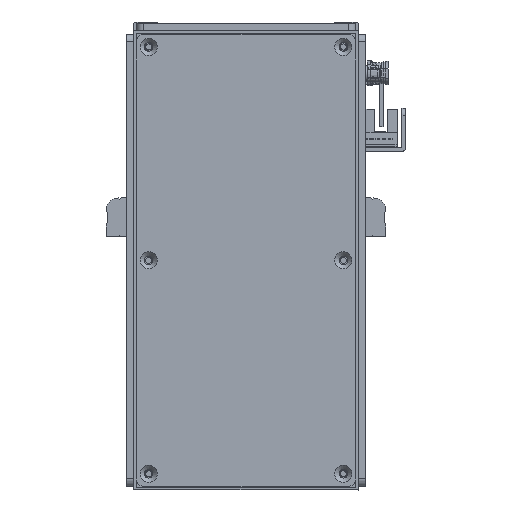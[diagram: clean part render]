
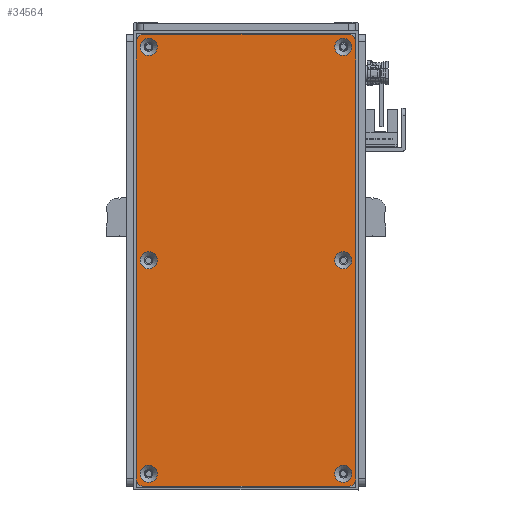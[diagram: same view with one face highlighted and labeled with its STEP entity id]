
A CAD part, front view. The second image highlights one B-rep face of the part: STEP entity #34564.
In plain terms, the highlighted planar face has unit normal (0, -1, 0) as drawn and (0, 0, 1) by its records, which use the part's own axes.
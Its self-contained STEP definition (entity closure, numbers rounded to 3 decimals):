
#4651=FACE_BOUND('',#8336,.T.);
#4652=FACE_BOUND('',#8337,.T.);
#4653=FACE_BOUND('',#8338,.T.);
#4654=FACE_BOUND('',#8339,.T.);
#4655=FACE_BOUND('',#8340,.T.);
#4656=FACE_BOUND('',#8341,.T.);
#6256=FACE_OUTER_BOUND('',#8335,.T.);
#8335=EDGE_LOOP('',(#31529,#31530,#31531,#31532,#31533,#31534,#31535,#31536));
#8336=EDGE_LOOP('',(#31537));
#8337=EDGE_LOOP('',(#31538));
#8338=EDGE_LOOP('',(#31539));
#8339=EDGE_LOOP('',(#31540));
#8340=EDGE_LOOP('',(#31541));
#8341=EDGE_LOOP('',(#31542));
#10021=CIRCLE('',#38963,3.45);
#10024=CIRCLE('',#38968,3.45);
#10027=CIRCLE('',#38973,3.45);
#10030=CIRCLE('',#38978,3.45);
#10033=CIRCLE('',#38983,3.45);
#10036=CIRCLE('',#38988,3.45);
#10043=CIRCLE('',#38998,3.);
#10044=CIRCLE('',#39001,3.);
#10045=CIRCLE('',#39004,3.);
#10046=CIRCLE('',#39007,3.);
#12671=LINE('',#60767,#15409);
#12674=LINE('',#60775,#15412);
#12677=LINE('',#60783,#15415);
#12680=LINE('',#60790,#15418);
#15409=VECTOR('',#48406,10.);
#15412=VECTOR('',#48415,10.);
#15415=VECTOR('',#48424,10.);
#15418=VECTOR('',#48433,10.);
#18401=VERTEX_POINT('',#60683);
#18404=VERTEX_POINT('',#60693);
#18407=VERTEX_POINT('',#60703);
#18410=VERTEX_POINT('',#60713);
#18413=VERTEX_POINT('',#60723);
#18416=VERTEX_POINT('',#60733);
#18427=VERTEX_POINT('',#60760);
#18428=VERTEX_POINT('',#60762);
#18429=VERTEX_POINT('',#60766);
#18430=VERTEX_POINT('',#60770);
#18431=VERTEX_POINT('',#60774);
#18432=VERTEX_POINT('',#60778);
#18433=VERTEX_POINT('',#60782);
#18434=VERTEX_POINT('',#60786);
#22783=EDGE_CURVE('',#18401,#18401,#10021,.T.);
#22788=EDGE_CURVE('',#18404,#18404,#10024,.T.);
#22793=EDGE_CURVE('',#18407,#18407,#10027,.T.);
#22798=EDGE_CURVE('',#18410,#18410,#10030,.T.);
#22803=EDGE_CURVE('',#18413,#18413,#10033,.T.);
#22808=EDGE_CURVE('',#18416,#18416,#10036,.T.);
#22822=EDGE_CURVE('',#18428,#18427,#10043,.T.);
#22824=EDGE_CURVE('',#18429,#18428,#12671,.T.);
#22826=EDGE_CURVE('',#18430,#18429,#10044,.T.);
#22828=EDGE_CURVE('',#18431,#18430,#12674,.T.);
#22830=EDGE_CURVE('',#18432,#18431,#10045,.T.);
#22832=EDGE_CURVE('',#18433,#18432,#12677,.T.);
#22834=EDGE_CURVE('',#18434,#18433,#10046,.T.);
#22836=EDGE_CURVE('',#18427,#18434,#12680,.T.);
#31529=ORIENTED_EDGE('',*,*,#22836,.T.);
#31530=ORIENTED_EDGE('',*,*,#22834,.T.);
#31531=ORIENTED_EDGE('',*,*,#22832,.T.);
#31532=ORIENTED_EDGE('',*,*,#22830,.T.);
#31533=ORIENTED_EDGE('',*,*,#22828,.T.);
#31534=ORIENTED_EDGE('',*,*,#22826,.T.);
#31535=ORIENTED_EDGE('',*,*,#22824,.T.);
#31536=ORIENTED_EDGE('',*,*,#22822,.T.);
#31537=ORIENTED_EDGE('',*,*,#22783,.T.);
#31538=ORIENTED_EDGE('',*,*,#22788,.T.);
#31539=ORIENTED_EDGE('',*,*,#22793,.T.);
#31540=ORIENTED_EDGE('',*,*,#22798,.T.);
#31541=ORIENTED_EDGE('',*,*,#22803,.T.);
#31542=ORIENTED_EDGE('',*,*,#22808,.T.);
#32952=PLANE('',#39009);
#34564=ADVANCED_FACE('',(#6256,#4651,#4652,#4653,#4654,#4655,#4656),#32952,
 .T.);
#38963=AXIS2_PLACEMENT_3D('',#60684,#48314,#48315);
#38968=AXIS2_PLACEMENT_3D('',#60694,#48326,#48327);
#38973=AXIS2_PLACEMENT_3D('',#60704,#48338,#48339);
#38978=AXIS2_PLACEMENT_3D('',#60714,#48350,#48351);
#38983=AXIS2_PLACEMENT_3D('',#60724,#48362,#48363);
#38988=AXIS2_PLACEMENT_3D('',#60734,#48374,#48375);
#38998=AXIS2_PLACEMENT_3D('',#60763,#48401,#48402);
#39001=AXIS2_PLACEMENT_3D('',#60771,#48410,#48411);
#39004=AXIS2_PLACEMENT_3D('',#60779,#48419,#48420);
#39007=AXIS2_PLACEMENT_3D('',#60787,#48428,#48429);
#39009=AXIS2_PLACEMENT_3D('',#60791,#48434,#48435);
#48314=DIRECTION('center_axis',(0.,0.,-1.));
#48315=DIRECTION('ref_axis',(1.,0.,0.));
#48326=DIRECTION('center_axis',(0.,0.,-1.));
#48327=DIRECTION('ref_axis',(1.,0.,0.));
#48338=DIRECTION('center_axis',(0.,0.,-1.));
#48339=DIRECTION('ref_axis',(1.,0.,0.));
#48350=DIRECTION('center_axis',(0.,0.,-1.));
#48351=DIRECTION('ref_axis',(1.,0.,0.));
#48362=DIRECTION('center_axis',(0.,0.,-1.));
#48363=DIRECTION('ref_axis',(1.,0.,0.));
#48374=DIRECTION('center_axis',(0.,0.,-1.));
#48375=DIRECTION('ref_axis',(1.,0.,0.));
#48401=DIRECTION('center_axis',(0.,0.,1.));
#48402=DIRECTION('ref_axis',(0.,1.,0.));
#48406=DIRECTION('',(-1.,0.,0.));
#48410=DIRECTION('center_axis',(0.,0.,1.));
#48411=DIRECTION('ref_axis',(1.,0.,0.));
#48415=DIRECTION('',(0.,1.,0.));
#48419=DIRECTION('center_axis',(0.,0.,1.));
#48420=DIRECTION('ref_axis',(0.,-1.,0.));
#48424=DIRECTION('',(1.,0.,0.));
#48428=DIRECTION('center_axis',(0.,0.,1.));
#48429=DIRECTION('ref_axis',(-1.,0.,0.));
#48433=DIRECTION('',(0.,-1.,0.));
#48434=DIRECTION('center_axis',(0.,0.,1.));
#48435=DIRECTION('ref_axis',(1.,0.,0.));
#60683=CARTESIAN_POINT('',(-3.45,39.,1.5));
#60684=CARTESIAN_POINT('Origin',(0.,39.,1.5));
#60693=CARTESIAN_POINT('',(82.05,-39.,1.5));
#60694=CARTESIAN_POINT('Origin',(85.5,-39.,1.5));
#60703=CARTESIAN_POINT('',(-88.95,39.,1.5));
#60704=CARTESIAN_POINT('Origin',(-85.5,39.,1.5));
#60713=CARTESIAN_POINT('',(82.05,39.,1.5));
#60714=CARTESIAN_POINT('Origin',(85.5,39.,1.5));
#60723=CARTESIAN_POINT('',(-88.95,-39.,1.5));
#60724=CARTESIAN_POINT('Origin',(-85.5,-39.,1.5));
#60733=CARTESIAN_POINT('',(-3.45,-39.,1.5));
#60734=CARTESIAN_POINT('Origin',(0.,-39.,1.5));
#60760=CARTESIAN_POINT('',(-90.5,41.,1.5));
#60762=CARTESIAN_POINT('',(-87.5,44.,1.5));
#60763=CARTESIAN_POINT('Origin',(-87.5,41.,1.5));
#60766=CARTESIAN_POINT('',(87.5,44.,1.5));
#60767=CARTESIAN_POINT('',(87.5,44.,1.5));
#60770=CARTESIAN_POINT('',(90.5,41.,1.5));
#60771=CARTESIAN_POINT('Origin',(87.5,41.,1.5));
#60774=CARTESIAN_POINT('',(90.5,-41.,1.5));
#60775=CARTESIAN_POINT('',(90.5,-41.,1.5));
#60778=CARTESIAN_POINT('',(87.5,-44.,1.5));
#60779=CARTESIAN_POINT('Origin',(87.5,-41.,1.5));
#60782=CARTESIAN_POINT('',(-87.5,-44.,1.5));
#60783=CARTESIAN_POINT('',(-87.5,-44.,1.5));
#60786=CARTESIAN_POINT('',(-90.5,-41.,1.5));
#60787=CARTESIAN_POINT('Origin',(-87.5,-41.,1.5));
#60790=CARTESIAN_POINT('',(-90.5,41.,1.5));
#60791=CARTESIAN_POINT('Origin',(0.,0.,
1.5));
